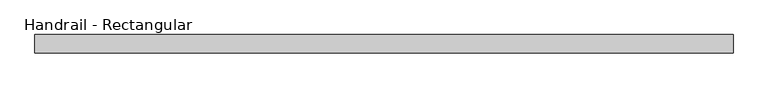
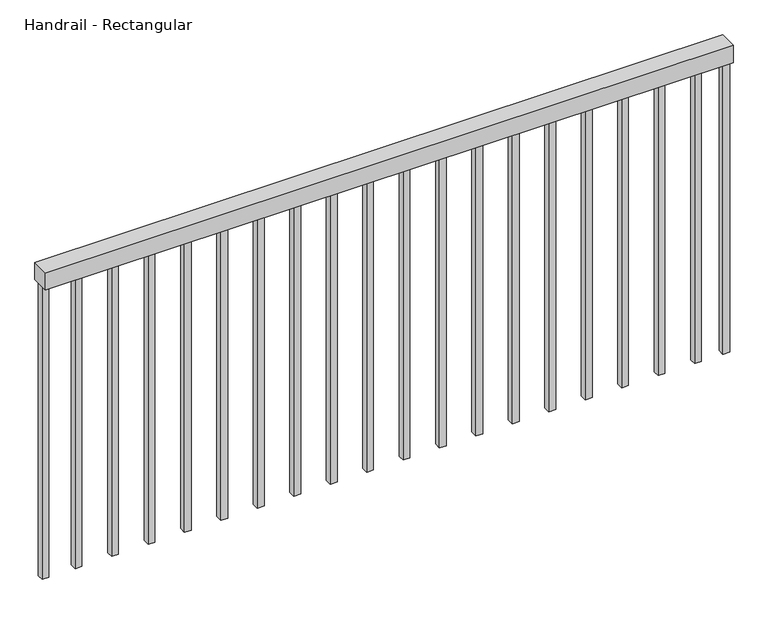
"""IFC4 building model written with IfcOpenShell, lengths in millimetres: railing geometry, Handrail - Rectangular."""

from ifc_helpers import new_model, si_unit, frame, origin, place, context, project, spatial, polyline, outline, extrude, source, transform, mapped, element, save


def handrail_rectangular_e25e5a2f(model_context):
    return source(origin(), model_context, "Body", "SweptSolid", [
        extrude(outline(polyline([(-15251.0839563, 6585.4316867), (-15251.0839563, 6636.2316867), (-13333.3839563, 6636.2316867), (-13333.3839563, 6585.4316867), (-15251.0839563, 6585.4316867)])), frame((0.0, 0.0, 10007.6), z_axis=(0.0, 0.0, 1.0), x_axis=(1.0, 0.0, 0.0)), (0.0, 0.0, 1.0), 50.8),
        extrude(outline(polyline([(-13431.8089563, 6601.3066867), (-13431.8089563, 6620.3566867), (-13412.7589563, 6620.3566867), (-13412.7589563, 6601.3066867), (-13431.8089563, 6601.3066867)])), frame((0.0, 0.0, 9144.0), z_axis=(0.0, 0.0, 1.0), x_axis=(1.0, 0.0, 0.0)), (0.0, 0.0, 1.0), 863.6),
        extrude(outline(polyline([(-13533.4089563, 6601.3066867), (-13533.4089563, 6620.3566867), (-13514.3589563, 6620.3566867), (-13514.3589563, 6601.3066867), (-13533.4089563, 6601.3066867)])), frame((0.0, 0.0, 9144.0), z_axis=(0.0, 0.0, 1.0), x_axis=(1.0, 0.0, 0.0)), (0.0, 0.0, 1.0), 863.6),
        extrude(outline(polyline([(-13635.0089563, 6601.3066867), (-13635.0089563, 6620.3566867), (-13615.9589563, 6620.3566867), (-13615.9589563, 6601.3066867), (-13635.0089563, 6601.3066867)])), frame((0.0, 0.0, 9144.0), z_axis=(0.0, 0.0, 1.0), x_axis=(1.0, 0.0, 0.0)), (0.0, 0.0, 1.0), 863.6),
        extrude(outline(polyline([(-13736.6089563, 6601.3066867), (-13736.6089563, 6620.3566867), (-13717.5589563, 6620.3566867), (-13717.5589563, 6601.3066867), (-13736.6089563, 6601.3066867)])), frame((0.0, 0.0, 9144.0), z_axis=(0.0, 0.0, 1.0), x_axis=(1.0, 0.0, 0.0)), (0.0, 0.0, 1.0), 863.6),
        extrude(outline(polyline([(-13838.2089563, 6601.3066867), (-13838.2089563, 6620.3566867), (-13819.1589563, 6620.3566867), (-13819.1589563, 6601.3066867), (-13838.2089563, 6601.3066867)])), frame((0.0, 0.0, 9144.0), z_axis=(0.0, 0.0, 1.0), x_axis=(1.0, 0.0, 0.0)), (0.0, 0.0, 1.0), 863.6),
        extrude(outline(polyline([(-13939.8089563, 6601.3066867), (-13939.8089563, 6620.3566867), (-13920.7589563, 6620.3566867), (-13920.7589563, 6601.3066867), (-13939.8089563, 6601.3066867)])), frame((0.0, 0.0, 9144.0), z_axis=(0.0, 0.0, 1.0), x_axis=(1.0, 0.0, 0.0)), (0.0, 0.0, 1.0), 863.6),
        extrude(outline(polyline([(-14041.4089563, 6601.3066867), (-14041.4089563, 6620.3566867), (-14022.3589563, 6620.3566867), (-14022.3589563, 6601.3066867), (-14041.4089563, 6601.3066867)])), frame((0.0, 0.0, 9144.0), z_axis=(0.0, 0.0, 1.0), x_axis=(1.0, 0.0, 0.0)), (0.0, 0.0, 1.0), 863.6),
        extrude(outline(polyline([(-14143.0089563, 6601.3066867), (-14143.0089563, 6620.3566867), (-14123.9589563, 6620.3566867), (-14123.9589563, 6601.3066867), (-14143.0089563, 6601.3066867)])), frame((0.0, 0.0, 9144.0), z_axis=(0.0, 0.0, 1.0), x_axis=(1.0, 0.0, 0.0)), (0.0, 0.0, 1.0), 863.6),
        extrude(outline(polyline([(-14244.6089563, 6601.3066867), (-14244.6089563, 6620.3566867), (-14225.5589563, 6620.3566867), (-14225.5589563, 6601.3066867), (-14244.6089563, 6601.3066867)])), frame((0.0, 0.0, 9144.0), z_axis=(0.0, 0.0, 1.0), x_axis=(1.0, 0.0, 0.0)), (0.0, 0.0, 1.0), 863.6),
        extrude(outline(polyline([(-14346.2089563, 6601.3066867), (-14346.2089563, 6620.3566867), (-14327.1589563, 6620.3566867), (-14327.1589563, 6601.3066867), (-14346.2089563, 6601.3066867)])), frame((0.0, 0.0, 9144.0), z_axis=(0.0, 0.0, 1.0), x_axis=(1.0, 0.0, 0.0)), (0.0, 0.0, 1.0), 863.6),
        extrude(outline(polyline([(-14447.8089563, 6601.3066867), (-14447.8089563, 6620.3566867), (-14428.7589563, 6620.3566867), (-14428.7589563, 6601.3066867), (-14447.8089563, 6601.3066867)])), frame((0.0, 0.0, 9144.0), z_axis=(0.0, 0.0, 1.0), x_axis=(1.0, 0.0, 0.0)), (0.0, 0.0, 1.0), 863.6),
        extrude(outline(polyline([(-14549.4089563, 6601.3066867), (-14549.4089563, 6620.3566867), (-14530.3589563, 6620.3566867), (-14530.3589563, 6601.3066867), (-14549.4089563, 6601.3066867)])), frame((0.0, 0.0, 9144.0), z_axis=(0.0, 0.0, 1.0), x_axis=(1.0, 0.0, 0.0)), (0.0, 0.0, 1.0), 863.6),
        extrude(outline(polyline([(-14651.0089563, 6601.3066867), (-14651.0089563, 6620.3566867), (-14631.9589563, 6620.3566867), (-14631.9589563, 6601.3066867), (-14651.0089563, 6601.3066867)])), frame((0.0, 0.0, 9144.0), z_axis=(0.0, 0.0, 1.0), x_axis=(1.0, 0.0, 0.0)), (0.0, 0.0, 1.0), 863.6),
        extrude(outline(polyline([(-14752.6089563, 6601.3066867), (-14752.6089563, 6620.3566867), (-14733.5589563, 6620.3566867), (-14733.5589563, 6601.3066867), (-14752.6089563, 6601.3066867)])), frame((0.0, 0.0, 9144.0), z_axis=(0.0, 0.0, 1.0), x_axis=(1.0, 0.0, 0.0)), (0.0, 0.0, 1.0), 863.6),
        extrude(outline(polyline([(-14854.2089563, 6601.3066867), (-14854.2089563, 6620.3566867), (-14835.1589563, 6620.3566867), (-14835.1589563, 6601.3066867), (-14854.2089563, 6601.3066867)])), frame((0.0, 0.0, 9144.0), z_axis=(0.0, 0.0, 1.0), x_axis=(1.0, 0.0, 0.0)), (0.0, 0.0, 1.0), 863.6),
        extrude(outline(polyline([(-14955.8089563, 6601.3066867), (-14955.8089563, 6620.3566867), (-14936.7589563, 6620.3566867), (-14936.7589563, 6601.3066867), (-14955.8089563, 6601.3066867)])), frame((0.0, 0.0, 9144.0), z_axis=(0.0, 0.0, 1.0), x_axis=(1.0, 0.0, 0.0)), (0.0, 0.0, 1.0), 863.6),
        extrude(outline(polyline([(-15057.4089563, 6601.3066867), (-15057.4089563, 6620.3566867), (-15038.3589563, 6620.3566867), (-15038.3589563, 6601.3066867), (-15057.4089563, 6601.3066867)])), frame((0.0, 0.0, 9144.0), z_axis=(0.0, 0.0, 1.0), x_axis=(1.0, 0.0, 0.0)), (0.0, 0.0, 1.0), 863.6),
        extrude(outline(polyline([(-15159.0089563, 6601.3066867), (-15159.0089563, 6620.3566867), (-15139.9589563, 6620.3566867), (-15139.9589563, 6601.3066867), (-15159.0089563, 6601.3066867)])), frame((0.0, 0.0, 9144.0), z_axis=(0.0, 0.0, 1.0), x_axis=(1.0, 0.0, 0.0)), (0.0, 0.0, 1.0), 863.6),
        extrude(outline(polyline([(-13352.4339563, 6601.3066867), (-13352.4339563, 6620.3566867), (-13333.3839563, 6620.3566867), (-13333.3839563, 6601.3066867), (-13352.4339563, 6601.3066867)])), frame((0.0, 0.0, 9144.0), z_axis=(0.0, 0.0, 1.0), x_axis=(1.0, 0.0, 0.0)), (0.0, 0.0, 1.0), 863.6),
        extrude(outline(polyline([(-15251.0839563, 6601.3066867), (-15251.0839563, 6620.3566867), (-15232.0339563, 6620.3566867), (-15232.0339563, 6601.3066867), (-15251.0839563, 6601.3066867)])), frame((0.0, 0.0, 9144.0), z_axis=(0.0, 0.0, 1.0), x_axis=(1.0, 0.0, 0.0)), (0.0, 0.0, 1.0), 863.6),
    ])


if __name__ == "__main__":
    model = new_model("IFC4")
    model_context = context("Model", 3, world=origin())
    ifc_project = project(units=[si_unit("LENGTHUNIT", "METRE", prefix="MILLI")], contexts=[model_context])
    site = spatial("IfcSite", under=ifc_project)
    building = spatial("IfcBuilding", under=site)
    placement = place(None, origin())
    handrail_rectangular_shape = handrail_rectangular_e25e5a2f(model_context)
    element("IfcRailing", 1, ObjectType="Handrail - Rectangular", at=placement, inside=building, context=model_context, shape_type="MappedRepresentation", body=[
        mapped(handrail_rectangular_shape, transform((0.0, 0.0, 0.0), x_axis=(1.0, 0.0, 0.0), y_axis=(0.0, 1.0, 0.0), z_axis=(0.0, 0.0, 1.0))),
    ])
    save(model, "model.ifc")
